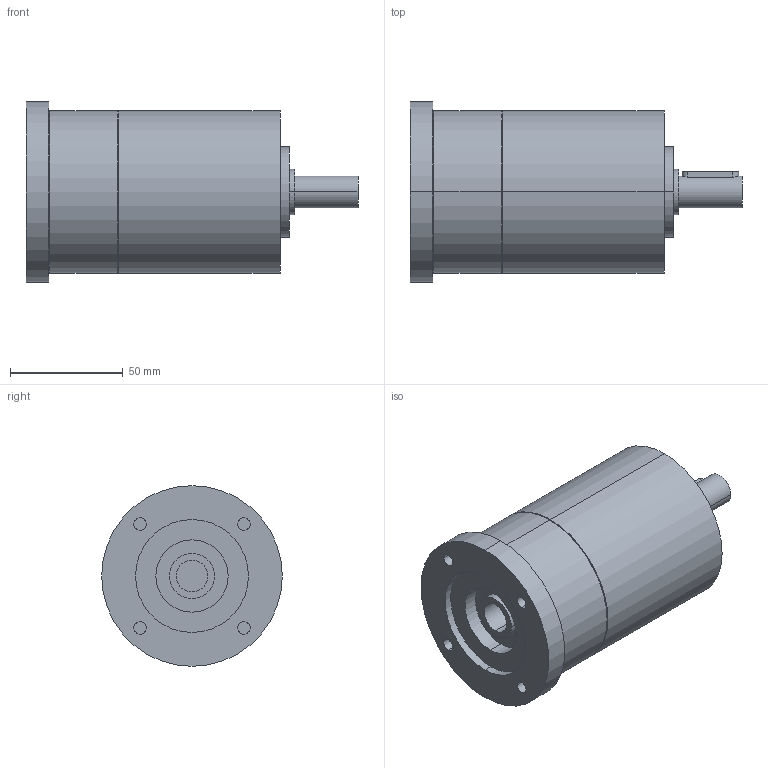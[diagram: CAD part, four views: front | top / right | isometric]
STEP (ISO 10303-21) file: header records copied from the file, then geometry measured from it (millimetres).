
FILE_DESCRIPTION(('CoCreate Modeling STEP Export'),'2;1');
FILE_NAME('GPT75_ig-9-12-16-20-25-28-35-40-50-70-100_14_B14T_14_P13.stp','2014-08-27T13:17:04',(''),(''),'CoCreate Modeling STEP processor for AP214 (Solid Model)','CoCreate Modeling 16.00C 25-Feb-2009 (C) Parametric Technology GmbH','');
FILE_SCHEMA(('AUTOMOTIVE_DESIGN { 1 0 10303 214 1 1 1 1 }'));
Length unit declared in the file: millimetre
Products named in the file (2): GPT75_ig-9-12-16-20-25-28-35-40-50-70-100_14_B14T_14_P13
Assembly tree (1 placements, depth 2):
  GPT75_ig-9-12-16-20-25-28-35-40-50-70-100_14_B14T_14_P13
    GPT75_ig-9-12-16-20-25-28-35-40-50-70-100_14_B14T_14_P13
Bounding box: 147 x 80 x 80 mm (x, y, z)
Volume: 460019.6 mm3; surface area: 42428.1 mm2
Topology: 1 solids, 1 shells, 67 faces, 150 edges, 103 vertices
Faces by surface type: cylinder 40, plane 23, cone 4
Entity records: 1958 total; most frequent: CARTESIAN_POINT 627, ORIENTED_EDGE 300, DIRECTION 222, EDGE_CURVE 150, VERTEX_POINT 103, AXIS2_PLACEMENT_3D 86, EDGE_LOOP 85, FACE_OUTER_BOUND 67
